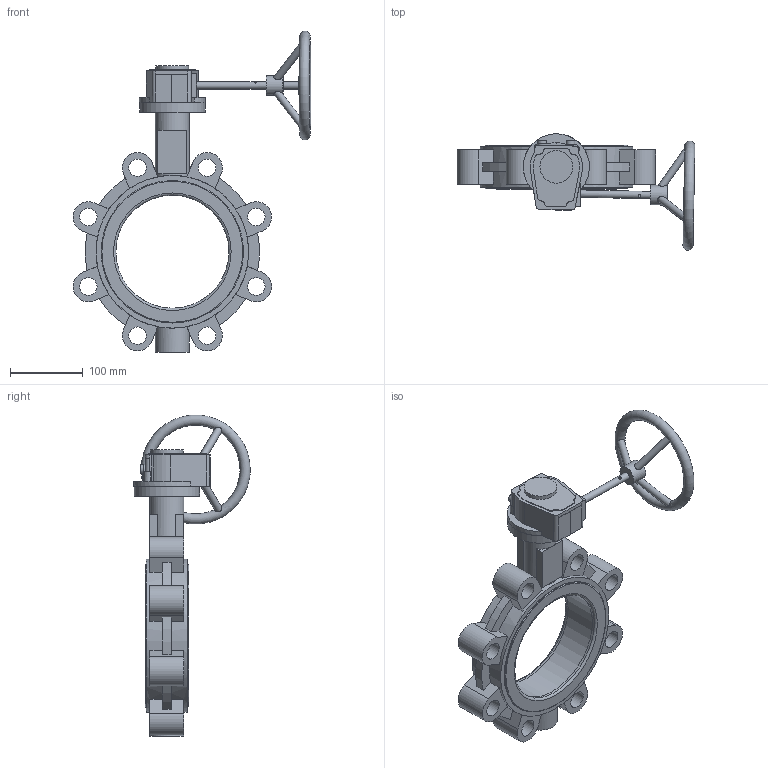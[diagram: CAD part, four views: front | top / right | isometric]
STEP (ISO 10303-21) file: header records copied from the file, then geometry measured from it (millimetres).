
FILE_DESCRIPTION (( 'STEP AP203' ), '1' );
FILE_NAME ('2502 LT型中线衬胶带销 手动头蝶阀 DN150 PN25 CD0309059.STEP', '2026-03-26T05:31:15', ( '' ), ( '' ), 'SwSTEP 2.0', 'SolidWorks 2018', '' );
FILE_SCHEMA (( 'CONFIG_CONTROL_DESIGN' ));
Length unit declared in the file: millimetre
Products named in the file (5): 2502 LT型中线衬胶带销 手动头蝶阀 DN150 PN25 CD0309059; GALA-D150-04AZC-00; GALA-D150-01LC25-00; DIN908 内六角旋塞 M27X2; G12L忒雄芛 潠趙
Assembly tree (4 placements, depth 2):
  2502 LT型中线衬胶带销 手动头蝶阀 DN150 PN25 CD0309059
    GALA-D150-01LC25-00
    GALA-D150-04AZC-00
    DIN908 内六角旋塞 M27X2
    G12L忒雄芛 潠趙
Bounding box: 326.96 x 160.17 x 442.36 mm (x, y, z)
Volume: 2071515.5 mm3; surface area: 372493.8 mm2
Topology: 5 solids, 10 shells, 294 faces, 761 edges, 499 vertices
Faces by surface type: plane 138, cylinder 127, cone 12, torus 9, bspline 6, sphere 2
Full cylindrical faces by diameter (mm): 4 x1, 10 x9, 12 x2, 23.8 x1, 24 x8, 27 x2, 31.6 x1, 34 x2, 45 x1, 47 x2, 90 x1, 91 x1, 155.474 x1, 164 x2, 196 x4, 210 x2
Entity records: 10419 total; most frequent: CARTESIAN_POINT 3098, DIRECTION 1386, ORIENTED_EDGE 1374, EDGE_CURVE 687, AXIS2_PLACEMENT_3D 529, VERTEX_POINT 485, EDGE_LOOP 402, FACE_OUTER_BOUND 341
